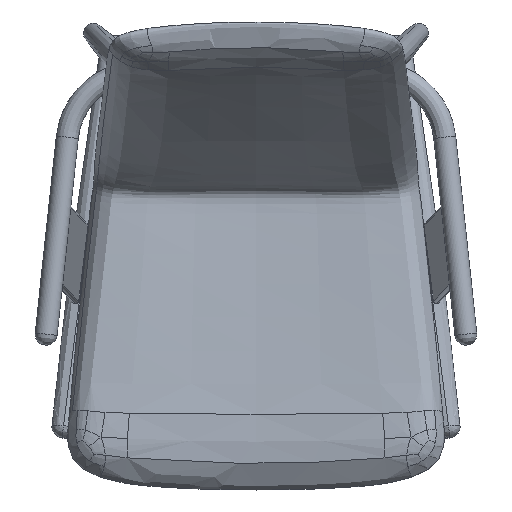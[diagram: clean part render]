
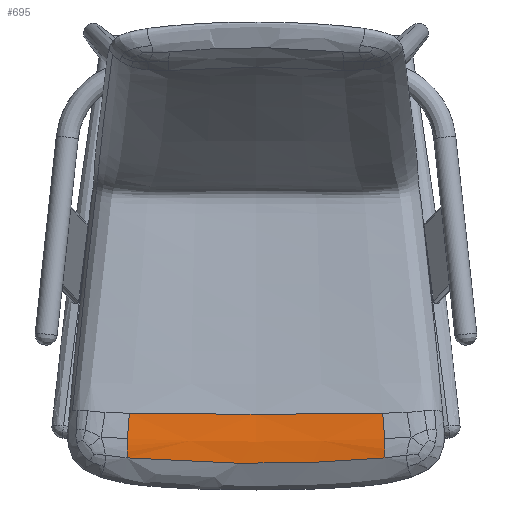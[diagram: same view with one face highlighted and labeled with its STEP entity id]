
A CAD part, top view. The second image highlights one B-rep face of the part: STEP entity #695.
In plain terms, the highlighted free-form (B-spline) face has degree [3, 3] with [5, 11] control points.
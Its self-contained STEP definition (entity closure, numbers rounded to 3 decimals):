
#96=B_SPLINE_SURFACE_WITH_KNOTS('',3,3,((#10020,#10021,#10022,#10023,#10024,
#10025,#10026,#10027,#10028,#10029,#10030),(#10031,#10032,#10033,#10034,
#10035,#10036,#10037,#10038,#10039,#10040,#10041),(#10042,#10043,#10044,
#10045,#10046,#10047,#10048,#10049,#10050,#10051,#10052),(#10053,#10054,
#10055,#10056,#10057,#10058,#10059,#10060,#10061,#10062,#10063),(#10064,
#10065,#10066,#10067,#10068,#10069,#10070,#10071,#10072,#10073,#10074)),
 .UNSPECIFIED.,.F.,.F.,.F.,(4,1,4),(4,1,1,1,1,1,1,1,4),(0.,1.,2.),(0.,1.,
2.,3.,4.,5.,6.,7.,8.),.UNSPECIFIED.);
#260=B_SPLINE_CURVE_WITH_KNOTS('',3,(#13122,#13123,#13124,#13125),
 .UNSPECIFIED.,.F.,.F.,(4,4),(-1.,0.),.UNSPECIFIED.);
#261=B_SPLINE_CURVE_WITH_KNOTS('',3,(#13126,#13127,#13128,#13129,#13130,
#13131,#13132,#13133,#13134,#13135,#13136),.UNSPECIFIED.,.F.,.F.,(4,1,1,
1,1,1,1,1,4),(0.,1.,2.,3.,4.,5.,6.,7.,8.),.UNSPECIFIED.);
#262=B_SPLINE_CURVE_WITH_KNOTS('',3,(#13137,#13138,#13139,#13140),
 .UNSPECIFIED.,.F.,.F.,(4,4),(1.,2.),.UNSPECIFIED.);
#263=B_SPLINE_CURVE_WITH_KNOTS('',3,(#13141,#13142,#13143,#13144,#13145,
#13146,#13147,#13148,#13149,#13150,#13151),.UNSPECIFIED.,.F.,.F.,(4,1,1,
1,1,1,1,1,4),(-8.,-7.,-6.,-5.,-4.,-3.,-2.,-1.,0.),.UNSPECIFIED.);
#264=B_SPLINE_CURVE_WITH_KNOTS('',3,(#13152,#13153,#13154,#13155),
 .UNSPECIFIED.,.F.,.F.,(4,4),(-2.,-1.),.UNSPECIFIED.);
#265=B_SPLINE_CURVE_WITH_KNOTS('',3,(#13156,#13157,#13158,#13159),
 .UNSPECIFIED.,.F.,.F.,(4,4),(0.,1.),.UNSPECIFIED.);
#695=ADVANCED_FACE('',(#961),#96,.T.);
#961=FACE_OUTER_BOUND('',#1227,.T.);
#1227=EDGE_LOOP('',(#1956,#1957,#1958,#1959,#1960,#1961));
#1956=ORIENTED_EDGE('',*,*,#2825,.F.);
#1957=ORIENTED_EDGE('',*,*,#2829,.F.);
#1958=ORIENTED_EDGE('',*,*,#2826,.T.);
#1959=ORIENTED_EDGE('',*,*,#2827,.F.);
#1960=ORIENTED_EDGE('',*,*,#2830,.F.);
#1961=ORIENTED_EDGE('',*,*,#2828,.T.);
#2825=EDGE_CURVE('',#3593,#3596,#260,.T.);
#2826=EDGE_CURVE('',#3592,#3532,#261,.T.);
#2827=EDGE_CURVE('',#3535,#3532,#262,.T.);
#2828=EDGE_CURVE('',#3539,#3596,#263,.T.);
#2829=EDGE_CURVE('',#3592,#3593,#264,.T.);
#2830=EDGE_CURVE('',#3539,#3535,#265,.T.);
#3532=VERTEX_POINT('',#12210);
#3535=VERTEX_POINT('',#12213);
#3539=VERTEX_POINT('',#12217);
#3592=VERTEX_POINT('',#12270);
#3593=VERTEX_POINT('',#12271);
#3596=VERTEX_POINT('',#12274);
#10020=CARTESIAN_POINT('',(36325.246,21996.501,434.759));
#10021=CARTESIAN_POINT('',(36339.681,21996.22,433.942));
#10022=CARTESIAN_POINT('',(36371.16,21995.726,432.114));
#10023=CARTESIAN_POINT('',(36422.516,21995.186,429.614));
#10024=CARTESIAN_POINT('',(36474.318,21994.844,428.175));
#10025=CARTESIAN_POINT('',(36526.343,21994.722,427.721));
#10026=CARTESIAN_POINT('',(36578.368,21994.844,428.175));
#10027=CARTESIAN_POINT('',(36630.17,21995.186,429.614));
#10028=CARTESIAN_POINT('',(36681.526,21995.726,432.114));
#10029=CARTESIAN_POINT('',(36713.006,21996.22,433.942));
#10030=CARTESIAN_POINT('',(36727.44,21996.501,434.759));
#10031=CARTESIAN_POINT('',(36323.85,21981.844,436.793));
#10032=CARTESIAN_POINT('',(36338.465,21981.431,435.996));
#10033=CARTESIAN_POINT('',(36370.384,21980.709,434.196));
#10034=CARTESIAN_POINT('',(36422.322,21979.925,431.71));
#10035=CARTESIAN_POINT('',(36474.318,21979.426,430.274));
#10036=CARTESIAN_POINT('',(36526.343,21979.248,429.819));
#10037=CARTESIAN_POINT('',(36578.368,21979.426,430.274));
#10038=CARTESIAN_POINT('',(36630.364,21979.925,431.71));
#10039=CARTESIAN_POINT('',(36682.303,21980.709,434.196));
#10040=CARTESIAN_POINT('',(36714.221,21981.431,435.996));
#10041=CARTESIAN_POINT('',(36728.836,21981.844,436.793));
#10042=CARTESIAN_POINT('',(36321.339,21954.955,440.309));
#10043=CARTESIAN_POINT('',(36336.318,21954.146,439.54));
#10044=CARTESIAN_POINT('',(36369.046,21952.738,437.766));
#10045=CARTESIAN_POINT('',(36421.987,21951.218,435.277));
#10046=CARTESIAN_POINT('',(36474.318,21950.248,433.838));
#10047=CARTESIAN_POINT('',(36526.343,21949.901,433.381));
#10048=CARTESIAN_POINT('',(36578.368,21950.248,433.838));
#10049=CARTESIAN_POINT('',(36630.699,21951.218,435.277));
#10050=CARTESIAN_POINT('',(36683.64,21952.738,437.766));
#10051=CARTESIAN_POINT('',(36716.368,21954.146,439.54));
#10052=CARTESIAN_POINT('',(36731.347,21954.955,440.309));
#10053=CARTESIAN_POINT('',(36321.75,21934.244,440.146));
#10054=CARTESIAN_POINT('',(36335.864,21932.896,439.455));
#10055=CARTESIAN_POINT('',(36368.057,21930.631,437.719));
#10056=CARTESIAN_POINT('',(36421.74,21928.326,435.135));
#10057=CARTESIAN_POINT('',(36474.318,21926.913,433.647));
#10058=CARTESIAN_POINT('',(36526.343,21926.43,433.178));
#10059=CARTESIAN_POINT('',(36578.369,21926.913,433.647));
#10060=CARTESIAN_POINT('',(36630.946,21928.326,435.135));
#10061=CARTESIAN_POINT('',(36684.629,21930.631,437.719));
#10062=CARTESIAN_POINT('',(36716.822,21932.896,439.455));
#10063=CARTESIAN_POINT('',(36730.936,21934.244,440.146));
#10064=CARTESIAN_POINT('',(36321.576,21925.632,438.608));
#10065=CARTESIAN_POINT('',(36335.493,21924.077,437.933));
#10066=CARTESIAN_POINT('',(36367.63,21921.478,436.183));
#10067=CARTESIAN_POINT('',(36421.633,21918.879,433.523));
#10068=CARTESIAN_POINT('',(36474.318,21917.338,431.993));
#10069=CARTESIAN_POINT('',(36526.343,21916.831,431.511));
#10070=CARTESIAN_POINT('',(36578.369,21917.338,431.993));
#10071=CARTESIAN_POINT('',(36631.053,21918.879,433.523));
#10072=CARTESIAN_POINT('',(36685.056,21921.478,436.183));
#10073=CARTESIAN_POINT('',(36717.193,21924.077,437.933));
#10074=CARTESIAN_POINT('',(36731.11,21925.632,438.608));
#12210=CARTESIAN_POINT('',(36731.11,21925.632,438.608));
#12213=CARTESIAN_POINT('',(36730.617,21956.5,439.389));
#12217=CARTESIAN_POINT('',(36727.44,21996.501,434.759));
#12270=CARTESIAN_POINT('',(36321.576,21925.632,438.608));
#12271=CARTESIAN_POINT('',(36322.069,21956.5,439.389));
#12274=CARTESIAN_POINT('',(36325.246,21996.501,434.759));
#13122=CARTESIAN_POINT('',(36322.069,21956.5,439.389));
#13123=CARTESIAN_POINT('',(36322.595,21968.4,438.551));
#13124=CARTESIAN_POINT('',(36323.85,21981.844,436.793));
#13125=CARTESIAN_POINT('',(36325.246,21996.501,434.759));
#13126=CARTESIAN_POINT('',(36321.576,21925.632,438.608));
#13127=CARTESIAN_POINT('',(36335.493,21924.077,437.933));
#13128=CARTESIAN_POINT('',(36367.63,21921.478,436.183));
#13129=CARTESIAN_POINT('',(36421.633,21918.879,433.523));
#13130=CARTESIAN_POINT('',(36474.318,21917.338,431.993));
#13131=CARTESIAN_POINT('',(36526.343,21916.831,431.511));
#13132=CARTESIAN_POINT('',(36578.369,21917.338,431.993));
#13133=CARTESIAN_POINT('',(36631.053,21918.879,433.523));
#13134=CARTESIAN_POINT('',(36685.056,21921.478,436.183));
#13135=CARTESIAN_POINT('',(36717.193,21924.077,437.933));
#13136=CARTESIAN_POINT('',(36731.11,21925.632,438.608));
#13137=CARTESIAN_POINT('',(36730.617,21956.5,439.389));
#13138=CARTESIAN_POINT('',(36731.142,21944.599,440.228));
#13139=CARTESIAN_POINT('',(36730.936,21934.244,440.146));
#13140=CARTESIAN_POINT('',(36731.11,21925.632,438.608));
#13141=CARTESIAN_POINT('',(36727.44,21996.501,434.759));
#13142=CARTESIAN_POINT('',(36713.006,21996.22,433.942));
#13143=CARTESIAN_POINT('',(36681.526,21995.726,432.114));
#13144=CARTESIAN_POINT('',(36630.17,21995.186,429.614));
#13145=CARTESIAN_POINT('',(36578.368,21994.844,428.175));
#13146=CARTESIAN_POINT('',(36526.343,21994.722,427.721));
#13147=CARTESIAN_POINT('',(36474.318,21994.844,428.175));
#13148=CARTESIAN_POINT('',(36422.516,21995.186,429.614));
#13149=CARTESIAN_POINT('',(36371.16,21995.726,432.114));
#13150=CARTESIAN_POINT('',(36339.681,21996.22,433.942));
#13151=CARTESIAN_POINT('',(36325.246,21996.501,434.759));
#13152=CARTESIAN_POINT('',(36321.576,21925.632,438.608));
#13153=CARTESIAN_POINT('',(36321.75,21934.244,440.146));
#13154=CARTESIAN_POINT('',(36321.544,21944.599,440.228));
#13155=CARTESIAN_POINT('',(36322.069,21956.5,439.389));
#13156=CARTESIAN_POINT('',(36727.44,21996.501,434.759));
#13157=CARTESIAN_POINT('',(36728.836,21981.844,436.793));
#13158=CARTESIAN_POINT('',(36730.092,21968.4,438.551));
#13159=CARTESIAN_POINT('',(36730.617,21956.5,439.389));
